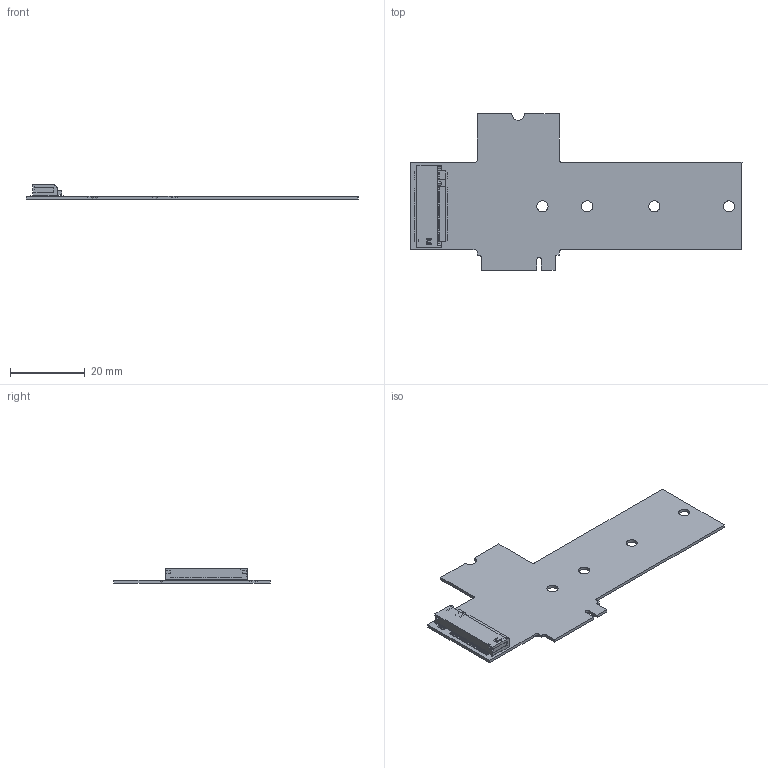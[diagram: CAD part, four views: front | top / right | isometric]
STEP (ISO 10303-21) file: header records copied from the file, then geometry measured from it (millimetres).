
FILE_DESCRIPTION(('KiCad electronic assembly'),'2;1');
FILE_NAME('kicad-m2ngff.step','2021-12-13T12:38:48',('Pcbnew'),('Kicad') ,'Open CASCADE STEP processor 7.5','KiCad to STEP converter','Unknown' );
FILE_SCHEMA(('AUTOMOTIVE_DESIGN { 1 0 10303 214 1 1 1 1 }'));
Length unit declared in the file: millimetre
Products named in the file (4): kicad-m2ngff 1; 1-2199119-3; SOLID; kicad-m2ngff PCB
Assembly tree (3 placements, depth 3):
  kicad-m2ngff 1
    1-2199119-3
      SOLID
    kicad-m2ngff PCB
Bounding box: 89 x 42 x 3.83 mm (x, y, z)
Volume: 2296.1 mm3; surface area: 5842.8 mm2
Topology: 2 solids, 2 shells, 1556 faces, 4419 edges, 2939 vertices
Faces by surface type: bspline 1519, plane 23, cylinder 14
Full cylindrical faces by diameter (mm): 1.1 x1, 1.6 x1, 3 x4
Entity records: 97176 total; most frequent: CARTESIAN_POINT 40875, B_SPLINE_CURVE_WITH_KNOTS 10916, ORIENTED_EDGE 8838, PCURVE 8838, DEFINITIONAL_REPRESENTATION 8838, EDGE_CURVE 4419, SURFACE_CURVE 4413, VERTEX_POINT 2939
